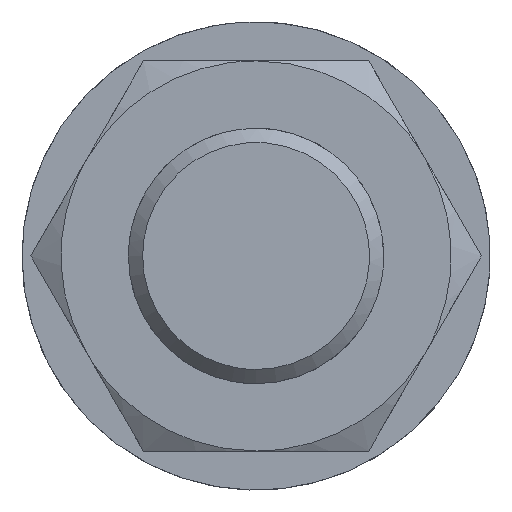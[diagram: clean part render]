
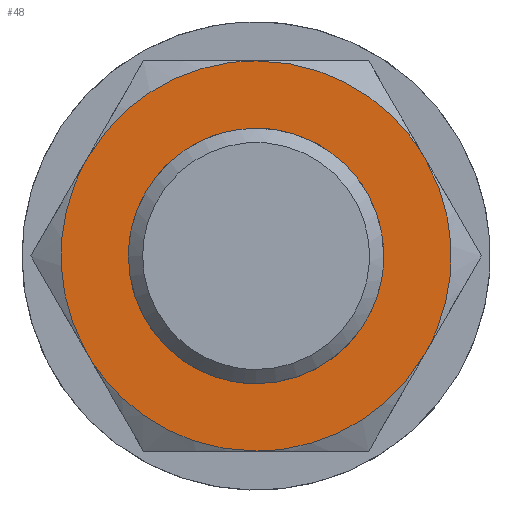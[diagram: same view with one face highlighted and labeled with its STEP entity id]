
A CAD part, left-side view. The second image highlights one B-rep face of the part: STEP entity #48.
In plain terms, the highlighted planar face has unit normal (-1, 0, 0).
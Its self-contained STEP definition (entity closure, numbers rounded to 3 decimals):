
#39=FACE_BOUND('',#135,.T.);
#48=ADVANCED_FACE('',(#90,#39),#655,.T.);
#90=FACE_OUTER_BOUND('',#134,.T.);
#134=EDGE_LOOP('',(#198,#199,#200,#201,#202,#203));
#135=EDGE_LOOP('',(#204,#205));
#198=ORIENTED_EDGE('',*,*,#399,.F.);
#199=ORIENTED_EDGE('',*,*,#401,.F.);
#200=ORIENTED_EDGE('',*,*,#402,.F.);
#201=ORIENTED_EDGE('',*,*,#400,.F.);
#202=ORIENTED_EDGE('',*,*,#398,.F.);
#203=ORIENTED_EDGE('',*,*,#397,.F.);
#204=ORIENTED_EDGE('',*,*,#387,.F.);
#205=ORIENTED_EDGE('',*,*,#385,.F.);
#385=EDGE_CURVE('',#600,#590,#510,.T.);
#387=EDGE_CURVE('',#590,#600,#511,.T.);
#397=EDGE_CURVE('',#594,#595,#519,.T.);
#398=EDGE_CURVE('',#595,#599,#520,.T.);
#399=EDGE_CURVE('',#596,#594,#521,.T.);
#400=EDGE_CURVE('',#599,#598,#522,.T.);
#401=EDGE_CURVE('',#597,#596,#523,.T.);
#402=EDGE_CURVE('',#598,#597,#524,.T.);
#510=(
BOUNDED_CURVE()
B_SPLINE_CURVE(2,(#1158,#1159,#1160,#1161,#1162),.UNSPECIFIED.,.F.,.F.)
B_SPLINE_CURVE_WITH_KNOTS((3,2,3),(56.549,84.823,113.097),
 .UNSPECIFIED.)
CURVE()
GEOMETRIC_REPRESENTATION_ITEM()
RATIONAL_B_SPLINE_CURVE((1.,0.707,1.,0.707,1.))
REPRESENTATION_ITEM('')
);
#511=(
BOUNDED_CURVE()
B_SPLINE_CURVE(2,(#1165,#1166,#1167,#1168,#1169),.UNSPECIFIED.,.F.,.F.)
B_SPLINE_CURVE_WITH_KNOTS((3,2,3),(0.,28.274,56.549),
 .UNSPECIFIED.)
CURVE()
GEOMETRIC_REPRESENTATION_ITEM()
RATIONAL_B_SPLINE_CURVE((1.,0.707,1.,0.707,1.))
REPRESENTATION_ITEM('')
);
#519=(
BOUNDED_CURVE()
B_SPLINE_CURVE(2,(#1207,#1208,#1209),.UNSPECIFIED.,.F.,.F.)
B_SPLINE_CURVE_WITH_KNOTS((3,3),(0.,28.798),.UNSPECIFIED.)
CURVE()
GEOMETRIC_REPRESENTATION_ITEM()
RATIONAL_B_SPLINE_CURVE((1.,0.866,1.))
REPRESENTATION_ITEM('')
);
#520=(
BOUNDED_CURVE()
B_SPLINE_CURVE(2,(#1210,#1211,#1212),.UNSPECIFIED.,.F.,.F.)
B_SPLINE_CURVE_WITH_KNOTS((3,3),(0.,28.798),.UNSPECIFIED.)
CURVE()
GEOMETRIC_REPRESENTATION_ITEM()
RATIONAL_B_SPLINE_CURVE((1.,0.866,1.))
REPRESENTATION_ITEM('')
);
#521=(
BOUNDED_CURVE()
B_SPLINE_CURVE(2,(#1213,#1214,#1215),.UNSPECIFIED.,.F.,.F.)
B_SPLINE_CURVE_WITH_KNOTS((3,3),(0.,28.798),.UNSPECIFIED.)
CURVE()
GEOMETRIC_REPRESENTATION_ITEM()
RATIONAL_B_SPLINE_CURVE((1.,0.866,1.))
REPRESENTATION_ITEM('')
);
#522=(
BOUNDED_CURVE()
B_SPLINE_CURVE(2,(#1216,#1217,#1218),.UNSPECIFIED.,.F.,.F.)
B_SPLINE_CURVE_WITH_KNOTS((3,3),(0.,28.798),.UNSPECIFIED.)
CURVE()
GEOMETRIC_REPRESENTATION_ITEM()
RATIONAL_B_SPLINE_CURVE((1.,0.866,1.))
REPRESENTATION_ITEM('')
);
#523=(
BOUNDED_CURVE()
B_SPLINE_CURVE(2,(#1219,#1220,#1221),.UNSPECIFIED.,.F.,.F.)
B_SPLINE_CURVE_WITH_KNOTS((3,3),(0.,28.798),.UNSPECIFIED.)
CURVE()
GEOMETRIC_REPRESENTATION_ITEM()
RATIONAL_B_SPLINE_CURVE((1.,0.866,1.))
REPRESENTATION_ITEM('')
);
#524=(
BOUNDED_CURVE()
B_SPLINE_CURVE(2,(#1222,#1223,#1224),.UNSPECIFIED.,.F.,.F.)
B_SPLINE_CURVE_WITH_KNOTS((3,3),(0.,28.798),.UNSPECIFIED.)
CURVE()
GEOMETRIC_REPRESENTATION_ITEM()
RATIONAL_B_SPLINE_CURVE((1.,0.866,1.))
REPRESENTATION_ITEM('')
);
#590=VERTEX_POINT('',#1126);
#594=VERTEX_POINT('',#1130);
#595=VERTEX_POINT('',#1131);
#596=VERTEX_POINT('',#1132);
#597=VERTEX_POINT('',#1133);
#598=VERTEX_POINT('',#1134);
#599=VERTEX_POINT('',#1135);
#600=VERTEX_POINT('',#1136);
#655=PLANE('',#769);
#769=AXIS2_PLACEMENT_3D('',#883,#795,$);
#795=DIRECTION('',(-1.,0.,0.));
#883=CARTESIAN_POINT('',(52.333,-38.225,33.12));
#1126=CARTESIAN_POINT('',(52.333,0.,-18.));
#1130=CARTESIAN_POINT('',(52.333,-23.816,13.75));
#1131=CARTESIAN_POINT('',(52.333,-23.816,-13.75));
#1132=CARTESIAN_POINT('',(52.333,0.,27.5));
#1133=CARTESIAN_POINT('',(52.333,23.816,13.75));
#1134=CARTESIAN_POINT('',(52.333,23.816,-13.75));
#1135=CARTESIAN_POINT('',(52.333,0.,-27.5));
#1136=CARTESIAN_POINT('',(52.333,0.,18.));
#1158=CARTESIAN_POINT('',(52.333,0.,18.));
#1159=CARTESIAN_POINT('',(52.333,18.,18.));
#1160=CARTESIAN_POINT('',(52.333,18.,0.));
#1161=CARTESIAN_POINT('',(52.333,18.,-18.));
#1162=CARTESIAN_POINT('',(52.333,0.,-18.));
#1165=CARTESIAN_POINT('',(52.333,0.,-18.));
#1166=CARTESIAN_POINT('',(52.333,-18.,-18.));
#1167=CARTESIAN_POINT('',(52.333,-18.,0.));
#1168=CARTESIAN_POINT('',(52.333,-18.,18.));
#1169=CARTESIAN_POINT('',(52.333,0.,18.));
#1207=CARTESIAN_POINT('',(52.333,-23.816,13.75));
#1208=CARTESIAN_POINT('',(52.333,-31.754,0.));
#1209=CARTESIAN_POINT('',(52.333,-23.816,-13.75));
#1210=CARTESIAN_POINT('',(52.333,-23.816,-13.75));
#1211=CARTESIAN_POINT('',(52.333,-15.877,-27.5));
#1212=CARTESIAN_POINT('',(52.333,0.,-27.5));
#1213=CARTESIAN_POINT('',(52.333,0.,27.5));
#1214=CARTESIAN_POINT('',(52.333,-15.877,27.5));
#1215=CARTESIAN_POINT('',(52.333,-23.816,13.75));
#1216=CARTESIAN_POINT('',(52.333,0.,-27.5));
#1217=CARTESIAN_POINT('',(52.333,15.877,-27.5));
#1218=CARTESIAN_POINT('',(52.333,23.816,-13.75));
#1219=CARTESIAN_POINT('',(52.333,23.816,13.75));
#1220=CARTESIAN_POINT('',(52.333,15.877,27.5));
#1221=CARTESIAN_POINT('',(52.333,0.,27.5));
#1222=CARTESIAN_POINT('',(52.333,23.816,-13.75));
#1223=CARTESIAN_POINT('',(52.333,31.754,0.));
#1224=CARTESIAN_POINT('',(52.333,23.816,13.75));
